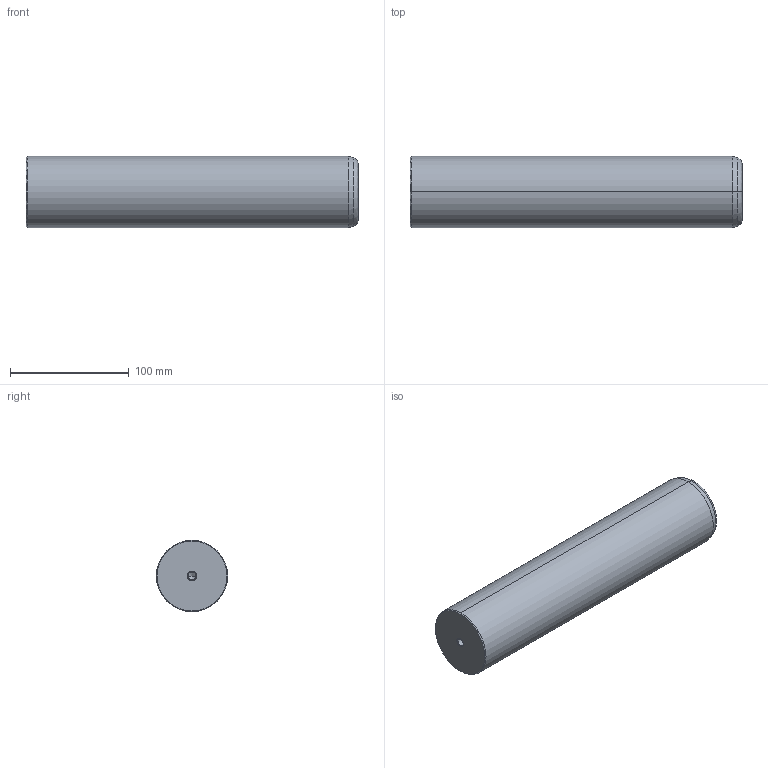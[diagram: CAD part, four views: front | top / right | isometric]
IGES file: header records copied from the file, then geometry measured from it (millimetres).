
Start section: START RECORD GO HERE.
Global section: file name: 720-60x280.igs; native system: DASSAULT SYSTEMES CATIA V5 R20 - www.3ds.com; preprocessor: CATIA Version 5 Release 20 ; author: Utente; organization: NB04-ASUS; date: 20201230.223502; units: millimetre
Bounding box: 280 x 60 x 60 mm (x, y, z)
Surface area: 58753.9 mm2 (no closed solid volume)
Topology: 0 solids, 0 shells, 22 faces, 108 edges, 104 vertices
Faces by surface type: revolution 20, plane 2
